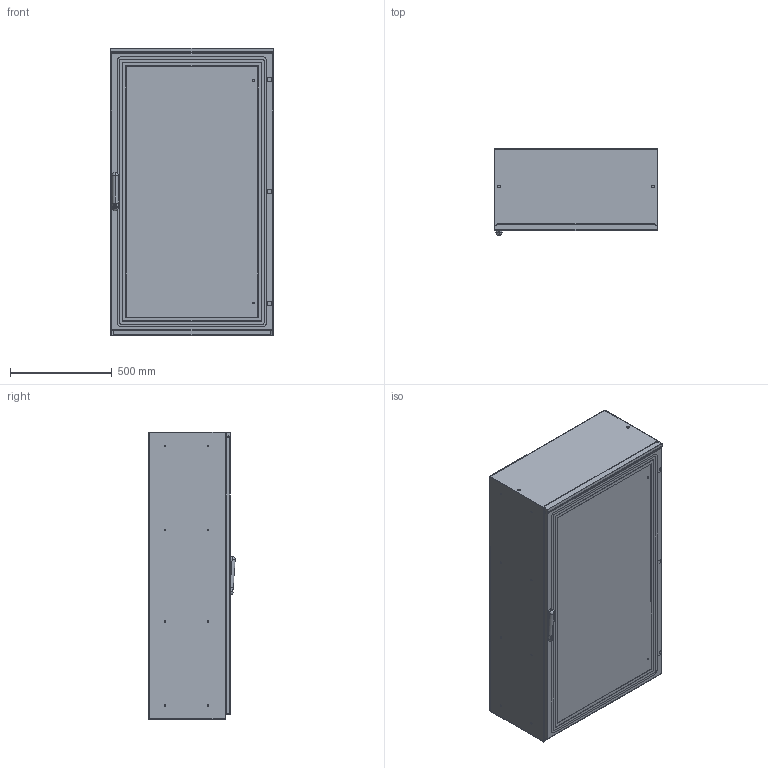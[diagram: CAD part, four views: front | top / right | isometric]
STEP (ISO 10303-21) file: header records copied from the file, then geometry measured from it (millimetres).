
FILE_DESCRIPTION (( 'STEP AP203' ), '1' );
FILE_NAME ('ECOMP81440.STEP', '2023-09-25T14:06:51', ( '' ), ( '' ), 'SwSTEP 2.0', 'SolidWorks 2022', '' );
FILE_SCHEMA (( 'CONFIG_CONTROL_DESIGN' ));
Length unit declared in the file: millimetre
Products named in the file (10): AR_ECOMP_tegolino_0800x0100; AR_ECOMP_assieme_maniglia; ECOMP81440; AR_ECOMP_struttura_0800x1400x0400; AR_ECOMP_montaggio_porta_singlola_2.0_0800x1400_ANT_DX; AR_ECOMP_porta_singola_2.0_0800x1400_ANT; AR_ECOMP_maniglia; AR_ECOMP_inserto_maniglia_Doppia_aletta; AR_ECOMP_tegolino_0800x0050; AR_ECOMP_piastra_interna_0800x1400
Assembly tree (10 placements, depth 4):
  ECOMP81440
    AR_ECOMP_struttura_0800x1400x0400
    AR_ECOMP_montaggio_porta_singlola_2.0_0800x1400_ANT_DX
      AR_ECOMP_porta_singola_2.0_0800x1400_ANT
      AR_ECOMP_assieme_maniglia
        AR_ECOMP_maniglia
        AR_ECOMP_inserto_maniglia_Doppia_aletta
    AR_ECOMP_piastra_interna_0800x1400
    AR_ECOMP_tegolino_0800x0050
    AR_ECOMP_tegolino_0800x0100  x2
Bounding box: 800 x 423.48 x 1411.49 mm (x, y, z)
Volume: 9508123.3 mm3; surface area: 11589442.2 mm2
Topology: 8 solids, 8 shells, 1257 faces, 3292 edges, 2105 vertices
Faces by surface type: cylinder 634, plane 594, bspline 10, sphere 8, torus 7, cone 4
Entity records: 40244 total; most frequent: CARTESIAN_POINT 8011, DIRECTION 6710, ORIENTED_EDGE 6272, EDGE_CURVE 3136, AXIS2_PLACEMENT_3D 2426, VERTEX_POINT 2025, LINE 1858, VECTOR 1858
